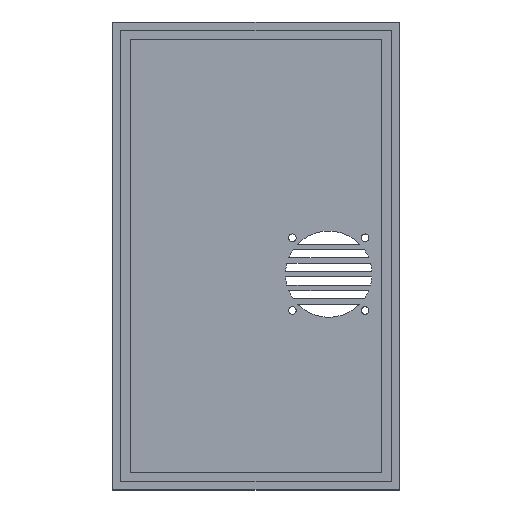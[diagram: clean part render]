
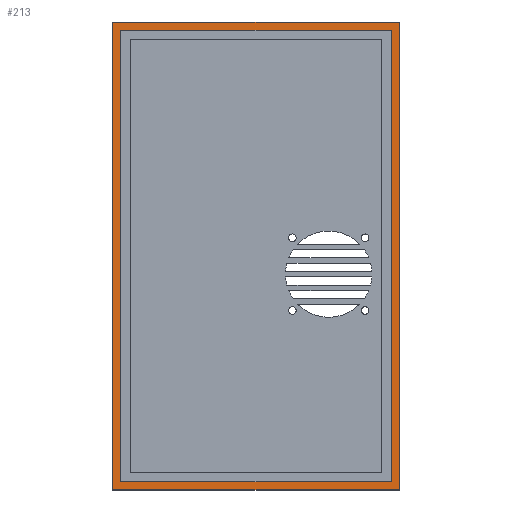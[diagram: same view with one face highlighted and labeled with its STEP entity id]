
A CAD part, top view. The second image highlights one B-rep face of the part: STEP entity #213.
In plain terms, the highlighted planar face has unit normal (0, 0, 1).
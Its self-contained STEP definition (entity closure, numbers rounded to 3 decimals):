
#24 = VERTEX_POINT('',#25);
#25 = CARTESIAN_POINT('',(0.,0.,3.));
#32 = PLANE('',#33);
#33 = AXIS2_PLACEMENT_3D('',#34,#35,#36);
#34 = CARTESIAN_POINT('',(0.,0.,0.));
#35 = DIRECTION('',(1.,0.,0.));
#36 = DIRECTION('',(0.,0.,1.));
#44 = PLANE('',#45);
#45 = AXIS2_PLACEMENT_3D('',#46,#47,#48);
#46 = CARTESIAN_POINT('',(0.,0.,0.));
#47 = DIRECTION('',(0.,1.,0.));
#48 = DIRECTION('',(0.,0.,1.));
#85 = VERTEX_POINT('',#86);
#86 = CARTESIAN_POINT('',(0.,206.,3.));
#100 = PLANE('',#101);
#101 = AXIS2_PLACEMENT_3D('',#102,#103,#104);
#102 = CARTESIAN_POINT('',(0.,206.,0.));
#103 = DIRECTION('',(0.,1.,0.));
#104 = DIRECTION('',(0.,0.,1.));
#112 = EDGE_CURVE('',#24,#85,#113,.T.);
#113 = SURFACE_CURVE('',#114,(#118,#125),.PCURVE_S1.);
#114 = LINE('',#115,#116);
#115 = CARTESIAN_POINT('',(0.,0.,3.));
#116 = VECTOR('',#117,1.);
#117 = DIRECTION('',(0.,1.,0.));
#118 = PCURVE('',#32,#119);
#119 = DEFINITIONAL_REPRESENTATION('',(#120),#124);
#120 = LINE('',#121,#122);
#121 = CARTESIAN_POINT('',(3.,0.));
#122 = VECTOR('',#123,1.);
#123 = DIRECTION('',(0.,-1.));
#124 = ( GEOMETRIC_REPRESENTATION_CONTEXT(2) 
PARAMETRIC_REPRESENTATION_CONTEXT() REPRESENTATION_CONTEXT('2D SPACE',''
  ) );
#125 = PCURVE('',#126,#131);
#126 = PLANE('',#127);
#127 = AXIS2_PLACEMENT_3D('',#128,#129,#130);
#128 = CARTESIAN_POINT('',(0.,0.,3.));
#129 = DIRECTION('',(0.,0.,1.));
#130 = DIRECTION('',(1.,0.,0.));
#131 = DEFINITIONAL_REPRESENTATION('',(#132),#136);
#132 = LINE('',#133,#134);
#133 = CARTESIAN_POINT('',(0.,0.));
#134 = VECTOR('',#135,1.);
#135 = DIRECTION('',(0.,1.));
#136 = ( GEOMETRIC_REPRESENTATION_CONTEXT(2) 
PARAMETRIC_REPRESENTATION_CONTEXT() REPRESENTATION_CONTEXT('2D SPACE',''
  ) );
#165 = EDGE_CURVE('',#24,#166,#168,.T.);
#166 = VERTEX_POINT('',#167);
#167 = CARTESIAN_POINT('',(126.,0.,3.));
#168 = SURFACE_CURVE('',#169,(#173,#180),.PCURVE_S1.);
#169 = LINE('',#170,#171);
#170 = CARTESIAN_POINT('',(0.,0.,3.));
#171 = VECTOR('',#172,1.);
#172 = DIRECTION('',(1.,0.,0.));
#173 = PCURVE('',#44,#174);
#174 = DEFINITIONAL_REPRESENTATION('',(#175),#179);
#175 = LINE('',#176,#177);
#176 = CARTESIAN_POINT('',(3.,0.));
#177 = VECTOR('',#178,1.);
#178 = DIRECTION('',(0.,1.));
#179 = ( GEOMETRIC_REPRESENTATION_CONTEXT(2) 
PARAMETRIC_REPRESENTATION_CONTEXT() REPRESENTATION_CONTEXT('2D SPACE',''
  ) );
#180 = PCURVE('',#126,#181);
#181 = DEFINITIONAL_REPRESENTATION('',(#182),#186);
#182 = LINE('',#183,#184);
#183 = CARTESIAN_POINT('',(0.,0.));
#184 = VECTOR('',#185,1.);
#185 = DIRECTION('',(1.,0.));
#186 = ( GEOMETRIC_REPRESENTATION_CONTEXT(2) 
PARAMETRIC_REPRESENTATION_CONTEXT() REPRESENTATION_CONTEXT('2D SPACE',''
  ) );
#202 = PLANE('',#203);
#203 = AXIS2_PLACEMENT_3D('',#204,#205,#206);
#204 = CARTESIAN_POINT('',(126.,0.,0.));
#205 = DIRECTION('',(1.,0.,0.));
#206 = DIRECTION('',(0.,0.,1.));
#213 = ADVANCED_FACE('',(#214,#262),#126,.T.);
#214 = FACE_BOUND('',#215,.T.);
#215 = EDGE_LOOP('',(#216,#217,#218,#241));
#216 = ORIENTED_EDGE('',*,*,#112,.F.);
#217 = ORIENTED_EDGE('',*,*,#165,.T.);
#218 = ORIENTED_EDGE('',*,*,#219,.T.);
#219 = EDGE_CURVE('',#166,#220,#222,.T.);
#220 = VERTEX_POINT('',#221);
#221 = CARTESIAN_POINT('',(126.,206.,3.));
#222 = SURFACE_CURVE('',#223,(#227,#234),.PCURVE_S1.);
#223 = LINE('',#224,#225);
#224 = CARTESIAN_POINT('',(126.,0.,3.));
#225 = VECTOR('',#226,1.);
#226 = DIRECTION('',(0.,1.,0.));
#227 = PCURVE('',#126,#228);
#228 = DEFINITIONAL_REPRESENTATION('',(#229),#233);
#229 = LINE('',#230,#231);
#230 = CARTESIAN_POINT('',(126.,0.));
#231 = VECTOR('',#232,1.);
#232 = DIRECTION('',(0.,1.));
#233 = ( GEOMETRIC_REPRESENTATION_CONTEXT(2) 
PARAMETRIC_REPRESENTATION_CONTEXT() REPRESENTATION_CONTEXT('2D SPACE',''
  ) );
#234 = PCURVE('',#202,#235);
#235 = DEFINITIONAL_REPRESENTATION('',(#236),#240);
#236 = LINE('',#237,#238);
#237 = CARTESIAN_POINT('',(3.,0.));
#238 = VECTOR('',#239,1.);
#239 = DIRECTION('',(0.,-1.));
#240 = ( GEOMETRIC_REPRESENTATION_CONTEXT(2) 
PARAMETRIC_REPRESENTATION_CONTEXT() REPRESENTATION_CONTEXT('2D SPACE',''
  ) );
#241 = ORIENTED_EDGE('',*,*,#242,.F.);
#242 = EDGE_CURVE('',#85,#220,#243,.T.);
#243 = SURFACE_CURVE('',#244,(#248,#255),.PCURVE_S1.);
#244 = LINE('',#245,#246);
#245 = CARTESIAN_POINT('',(0.,206.,3.));
#246 = VECTOR('',#247,1.);
#247 = DIRECTION('',(1.,0.,0.));
#248 = PCURVE('',#126,#249);
#249 = DEFINITIONAL_REPRESENTATION('',(#250),#254);
#250 = LINE('',#251,#252);
#251 = CARTESIAN_POINT('',(0.,206.));
#252 = VECTOR('',#253,1.);
#253 = DIRECTION('',(1.,0.));
#254 = ( GEOMETRIC_REPRESENTATION_CONTEXT(2) 
PARAMETRIC_REPRESENTATION_CONTEXT() REPRESENTATION_CONTEXT('2D SPACE',''
  ) );
#255 = PCURVE('',#100,#256);
#256 = DEFINITIONAL_REPRESENTATION('',(#257),#261);
#257 = LINE('',#258,#259);
#258 = CARTESIAN_POINT('',(3.,0.));
#259 = VECTOR('',#260,1.);
#260 = DIRECTION('',(0.,1.));
#261 = ( GEOMETRIC_REPRESENTATION_CONTEXT(2) 
PARAMETRIC_REPRESENTATION_CONTEXT() REPRESENTATION_CONTEXT('2D SPACE',''
  ) );
#262 = FACE_BOUND('',#263,.T.);
#263 = EDGE_LOOP('',(#264,#294,#322,#350));
#264 = ORIENTED_EDGE('',*,*,#265,.T.);
#265 = EDGE_CURVE('',#266,#268,#270,.T.);
#266 = VERTEX_POINT('',#267);
#267 = CARTESIAN_POINT('',(3.55,3.55,3.));
#268 = VERTEX_POINT('',#269);
#269 = CARTESIAN_POINT('',(3.55,202.45,3.));
#270 = SURFACE_CURVE('',#271,(#275,#282),.PCURVE_S1.);
#271 = LINE('',#272,#273);
#272 = CARTESIAN_POINT('',(3.55,3.55,3.));
#273 = VECTOR('',#274,1.);
#274 = DIRECTION('',(0.,1.,0.));
#275 = PCURVE('',#126,#276);
#276 = DEFINITIONAL_REPRESENTATION('',(#277),#281);
#277 = LINE('',#278,#279);
#278 = CARTESIAN_POINT('',(3.55,3.55));
#279 = VECTOR('',#280,1.);
#280 = DIRECTION('',(0.,1.));
#281 = ( GEOMETRIC_REPRESENTATION_CONTEXT(2) 
PARAMETRIC_REPRESENTATION_CONTEXT() REPRESENTATION_CONTEXT('2D SPACE',''
  ) );
#282 = PCURVE('',#283,#288);
#283 = PLANE('',#284);
#284 = AXIS2_PLACEMENT_3D('',#285,#286,#287);
#285 = CARTESIAN_POINT('',(3.55,3.55,3.));
#286 = DIRECTION('',(1.,0.,0.));
#287 = DIRECTION('',(0.,0.,1.));
#288 = DEFINITIONAL_REPRESENTATION('',(#289),#293);
#289 = LINE('',#290,#291);
#290 = CARTESIAN_POINT('',(0.,0.));
#291 = VECTOR('',#292,1.);
#292 = DIRECTION('',(0.,-1.));
#293 = ( GEOMETRIC_REPRESENTATION_CONTEXT(2) 
PARAMETRIC_REPRESENTATION_CONTEXT() REPRESENTATION_CONTEXT('2D SPACE',''
  ) );
#294 = ORIENTED_EDGE('',*,*,#295,.T.);
#295 = EDGE_CURVE('',#268,#296,#298,.T.);
#296 = VERTEX_POINT('',#297);
#297 = CARTESIAN_POINT('',(122.45,202.45,3.));
#298 = SURFACE_CURVE('',#299,(#303,#310),.PCURVE_S1.);
#299 = LINE('',#300,#301);
#300 = CARTESIAN_POINT('',(3.55,202.45,3.));
#301 = VECTOR('',#302,1.);
#302 = DIRECTION('',(1.,0.,0.));
#303 = PCURVE('',#126,#304);
#304 = DEFINITIONAL_REPRESENTATION('',(#305),#309);
#305 = LINE('',#306,#307);
#306 = CARTESIAN_POINT('',(3.55,202.45));
#307 = VECTOR('',#308,1.);
#308 = DIRECTION('',(1.,0.));
#309 = ( GEOMETRIC_REPRESENTATION_CONTEXT(2) 
PARAMETRIC_REPRESENTATION_CONTEXT() REPRESENTATION_CONTEXT('2D SPACE',''
  ) );
#310 = PCURVE('',#311,#316);
#311 = PLANE('',#312);
#312 = AXIS2_PLACEMENT_3D('',#313,#314,#315);
#313 = CARTESIAN_POINT('',(118.45,202.45,3.));
#314 = DIRECTION('',(0.,1.,0.));
#315 = DIRECTION('',(0.,0.,1.));
#316 = DEFINITIONAL_REPRESENTATION('',(#317),#321);
#317 = LINE('',#318,#319);
#318 = CARTESIAN_POINT('',(0.,-114.9));
#319 = VECTOR('',#320,1.);
#320 = DIRECTION('',(0.,1.));
#321 = ( GEOMETRIC_REPRESENTATION_CONTEXT(2) 
PARAMETRIC_REPRESENTATION_CONTEXT() REPRESENTATION_CONTEXT('2D SPACE',''
  ) );
#322 = ORIENTED_EDGE('',*,*,#323,.F.);
#323 = EDGE_CURVE('',#324,#296,#326,.T.);
#324 = VERTEX_POINT('',#325);
#325 = CARTESIAN_POINT('',(122.45,3.55,3.));
#326 = SURFACE_CURVE('',#327,(#331,#338),.PCURVE_S1.);
#327 = LINE('',#328,#329);
#328 = CARTESIAN_POINT('',(122.45,3.55,3.));
#329 = VECTOR('',#330,1.);
#330 = DIRECTION('',(0.,1.,0.));
#331 = PCURVE('',#126,#332);
#332 = DEFINITIONAL_REPRESENTATION('',(#333),#337);
#333 = LINE('',#334,#335);
#334 = CARTESIAN_POINT('',(122.45,3.55));
#335 = VECTOR('',#336,1.);
#336 = DIRECTION('',(0.,1.));
#337 = ( GEOMETRIC_REPRESENTATION_CONTEXT(2) 
PARAMETRIC_REPRESENTATION_CONTEXT() REPRESENTATION_CONTEXT('2D SPACE',''
  ) );
#338 = PCURVE('',#339,#344);
#339 = PLANE('',#340);
#340 = AXIS2_PLACEMENT_3D('',#341,#342,#343);
#341 = CARTESIAN_POINT('',(122.45,3.55,3.));
#342 = DIRECTION('',(1.,0.,0.));
#343 = DIRECTION('',(0.,0.,1.));
#344 = DEFINITIONAL_REPRESENTATION('',(#345),#349);
#345 = LINE('',#346,#347);
#346 = CARTESIAN_POINT('',(0.,0.));
#347 = VECTOR('',#348,1.);
#348 = DIRECTION('',(0.,-1.));
#349 = ( GEOMETRIC_REPRESENTATION_CONTEXT(2) 
PARAMETRIC_REPRESENTATION_CONTEXT() REPRESENTATION_CONTEXT('2D SPACE',''
  ) );
#350 = ORIENTED_EDGE('',*,*,#351,.T.);
#351 = EDGE_CURVE('',#324,#266,#352,.T.);
#352 = SURFACE_CURVE('',#353,(#357,#364),.PCURVE_S1.);
#353 = LINE('',#354,#355);
#354 = CARTESIAN_POINT('',(122.45,3.55,3.));
#355 = VECTOR('',#356,1.);
#356 = DIRECTION('',(-1.,0.,0.));
#357 = PCURVE('',#126,#358);
#358 = DEFINITIONAL_REPRESENTATION('',(#359),#363);
#359 = LINE('',#360,#361);
#360 = CARTESIAN_POINT('',(122.45,3.55));
#361 = VECTOR('',#362,1.);
#362 = DIRECTION('',(-1.,0.));
#363 = ( GEOMETRIC_REPRESENTATION_CONTEXT(2) 
PARAMETRIC_REPRESENTATION_CONTEXT() REPRESENTATION_CONTEXT('2D SPACE',''
  ) );
#364 = PCURVE('',#365,#370);
#365 = PLANE('',#366);
#366 = AXIS2_PLACEMENT_3D('',#367,#368,#369);
#367 = CARTESIAN_POINT('',(3.55,3.55,3.));
#368 = DIRECTION('',(0.,1.,0.));
#369 = DIRECTION('',(0.,0.,1.));
#370 = DEFINITIONAL_REPRESENTATION('',(#371),#375);
#371 = LINE('',#372,#373);
#372 = CARTESIAN_POINT('',(0.,118.9));
#373 = VECTOR('',#374,1.);
#374 = DIRECTION('',(0.,-1.));
#375 = ( GEOMETRIC_REPRESENTATION_CONTEXT(2) 
PARAMETRIC_REPRESENTATION_CONTEXT() REPRESENTATION_CONTEXT('2D SPACE',''
  ) );
